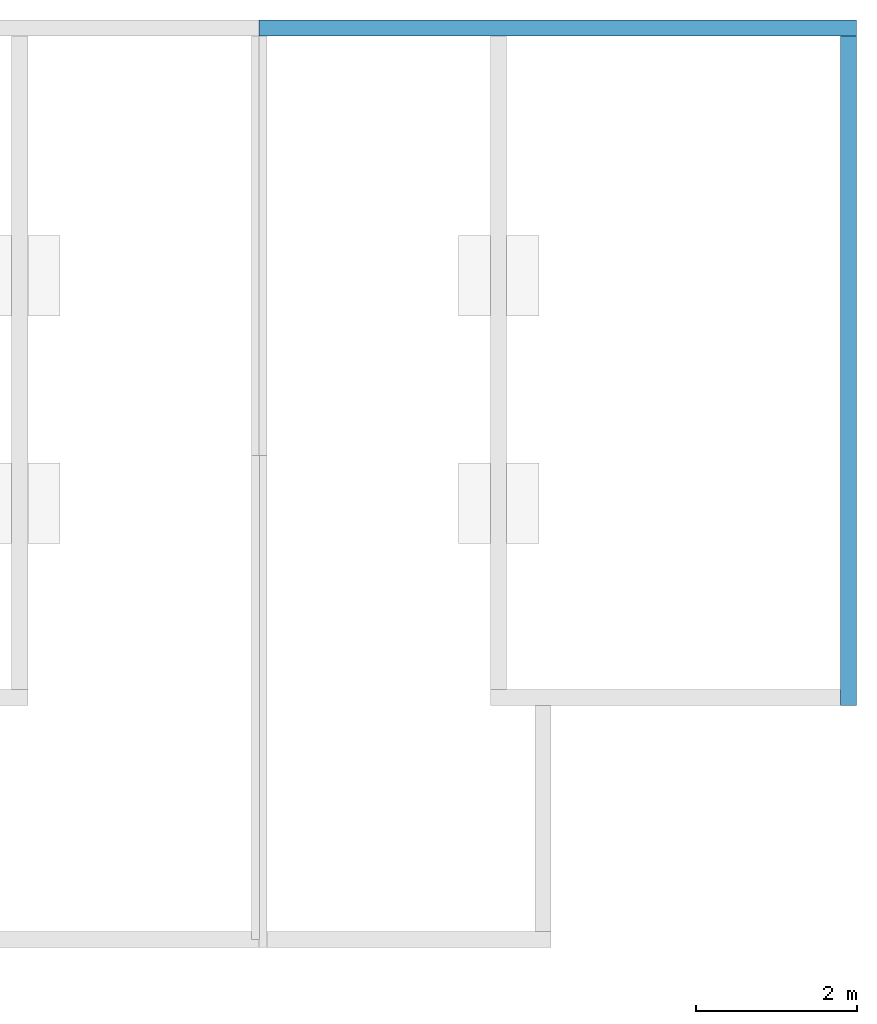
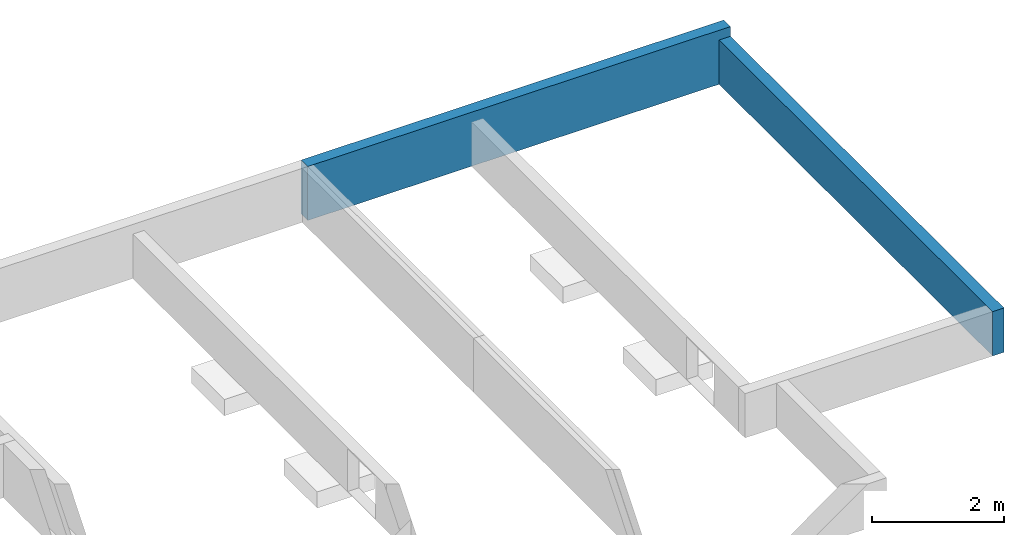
# One storey, part 2 of 2: 2 walls.
"""IFC2X3 building model written with IfcOpenShell, lengths in metres."""

from ifc_helpers import new_model, entity, si_unit, converted_unit, derived_unit, direction, frame, frame_2d, origin, place, context, subcontext, project, spatial, rectangle, extrude, material, layer, layer_set, layer_usage, type_object, element, save


model = new_model("IFC2X3")

# Units and contexts
model_context = context("Model", 3, precision=1e-05, world=origin(), true_north=direction((6.12303176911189e-17, 1.0)))
body_context = subcontext(model_context, "Body", "Model", "MODEL_VIEW")
ifc_project = project(units=[si_unit("LENGTHUNIT", "METRE"), si_unit("AREAUNIT", "SQUARE_METRE"), si_unit("VOLUMEUNIT", "CUBIC_METRE"), converted_unit("PLANEANGLEUNIT", "DEGREE", entity("IfcRatioMeasure", 0.0174532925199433), si_unit("PLANEANGLEUNIT", "RADIAN"), dimensions=[0, 0, 0, 0, 0, 0, 0]), si_unit("MASSUNIT", "GRAM", prefix="KILO"), derived_unit("MASSDENSITYUNIT", [(si_unit("MASSUNIT", "GRAM", prefix="KILO"), 1), (si_unit("LENGTHUNIT", "METRE"), -3)]), si_unit("TIMEUNIT", "SECOND"), si_unit("FREQUENCYUNIT", "HERTZ"), si_unit("THERMODYNAMICTEMPERATUREUNIT", "DEGREE_CELSIUS"), derived_unit("THERMALTRANSMITTANCEUNIT", [(si_unit("MASSUNIT", "GRAM", prefix="KILO"), 1), (si_unit("THERMODYNAMICTEMPERATUREUNIT", "KELVIN"), -1), (si_unit("TIMEUNIT", "SECOND"), -3)]), derived_unit("VOLUMETRICFLOWRATEUNIT", [(si_unit("LENGTHUNIT", "METRE"), 3), (si_unit("TIMEUNIT", "SECOND"), -1)]), si_unit("ELECTRICCURRENTUNIT", "AMPERE"), si_unit("ELECTRICVOLTAGEUNIT", "VOLT"), si_unit("POWERUNIT", "WATT"), si_unit("FORCEUNIT", "NEWTON", prefix="KILO"), si_unit("ILLUMINANCEUNIT", "LUX"), si_unit("LUMINOUSFLUXUNIT", "LUMEN"), si_unit("LUMINOUSINTENSITYUNIT", "CANDELA"), derived_unit("USERDEFINED", [(si_unit("MASSUNIT", "GRAM", prefix="KILO"), -1), (si_unit("LENGTHUNIT", "METRE"), -2), (si_unit("TIMEUNIT", "SECOND"), 3), (si_unit("LUMINOUSFLUXUNIT", "LUMEN"), 1)]), derived_unit("LINEARVELOCITYUNIT", [(si_unit("LENGTHUNIT", "METRE"), 1), (si_unit("TIMEUNIT", "SECOND"), -1)]), si_unit("PRESSUREUNIT", "PASCAL"), derived_unit("USERDEFINED", [(si_unit("LENGTHUNIT", "METRE"), -2), (si_unit("MASSUNIT", "GRAM", prefix="KILO"), 1), (si_unit("TIMEUNIT", "SECOND"), -2)])], contexts=[model_context])

# Site, building, storey
site_placement = place(None, origin())
site = spatial("IfcSite", under=ifc_project, at=site_placement, Name="Surface", CompositionType="ELEMENT")
building_placement = place(site_placement, origin())
building = spatial("IfcBuilding", under=site, at=building_placement, CompositionType="ELEMENT")
storey_placement = place(building_placement, frame((0.0, 0.0, -0.8)))
storey = spatial("IfcBuildingStorey", under=building, at=storey_placement, Name="vs", CompositionType="ELEMENT", Elevation=-0.8)

# Walls
ifc_material = material(Name="Parpaing")
ifc_layer = layer(ifc_material, 0.2)
ifc_layer_set = layer_set([ifc_layer], Name="Mur de base:Ext. Parpaing 20")
ifc_layer_usage_1 = layer_usage(ifc_layer_set, "AXIS2", "NEGATIVE", 0.1)
wall_type = type_object("IfcWallType", Name="Mur de base:Ext. Parpaing 20", PredefinedType="STANDARD", material=ifc_layer_set)
wall_1_placement = place(storey_placement, frame((83.7267857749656, 92.3475239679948, -0.2)))
element("IfcWallStandardCase", 1, at=wall_1_placement, inside=storey, type_object=wall_type, material=ifc_layer_usage_1, Name="Mur de base:Ext. Parpaing 20", ObjectType="Mur de base:Ext. Parpaing 20", context=body_context, shape_type="SweptSolid", body=[
    extrude(rectangle(XDim=7.40826294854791, YDim=0.199999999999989, at=frame_2d((3.70413147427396, 3.51801920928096e-15), x_axis=(-1.0, 0.0))), origin(), (0.0, 0.0, 1.0), 1.0),
])
ifc_layer_usage_2 = layer_usage(ifc_layer_set, "AXIS2", "NEGATIVE", 0.1)
wall_2_placement = place(storey_placement, frame((91.0350487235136, 92.2475239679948, -0.2), z_axis=(0.0, 0.0, 1.0), x_axis=(0.0, -1.0, 0.0)))
element("IfcWallStandardCase", 2, at=wall_2_placement, inside=storey, type_object=wall_type, material=ifc_layer_usage_2, Name="Mur de base:Ext. Parpaing 20", ObjectType="Mur de base:Ext. Parpaing 20", context=body_context, shape_type="SweptSolid", body=[
    extrude(rectangle(XDim=8.29999999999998, YDim=0.199999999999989, at=frame_2d((4.14999999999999, 0.0), x_axis=(-1.0, 0.0))), origin(), (0.0, 0.0, 1.0), 0.82),
])

save(model, "model.ifc")
